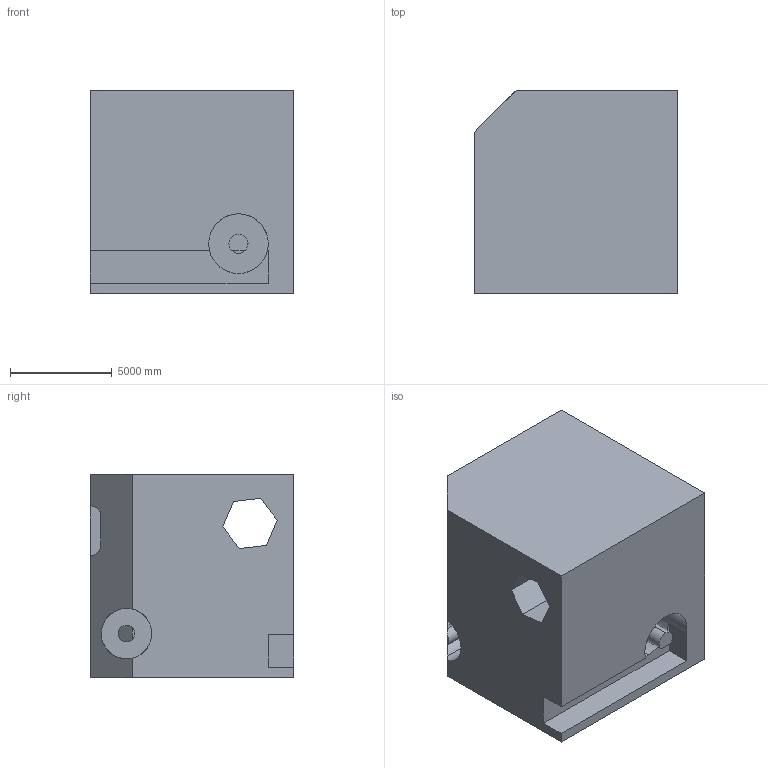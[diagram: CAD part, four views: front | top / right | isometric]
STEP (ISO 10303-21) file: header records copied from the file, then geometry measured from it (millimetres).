
FILE_DESCRIPTION (( 'STEP AP203' ), '1' );
FILE_NAME ('615.STEP', '2022-08-05T16:11:15', ( 'user' ), ( '' ), 'SwSTEP 2.0', 'SolidWorks 2021', '' );
FILE_SCHEMA (( 'CONFIG_CONTROL_DESIGN' ));
Length unit declared in the file: centimetre
Products named in the file (1): 615
Bounding box: 10000 x 10000 x 10000 mm (x, y, z)
Volume: 865364445657.3 mm3; surface area: 763794588.5 mm2
Topology: 1 solids, 1 shells, 46 faces, 129 edges, 86 vertices
Faces by surface type: plane 36, cylinder 10
Entity records: 1566 total; most frequent: CARTESIAN_POINT 286, ORIENTED_EDGE 258, DIRECTION 243, EDGE_CURVE 129, VECTOR 93, LINE 93, VERTEX_POINT 86, AXIS2_PLACEMENT_3D 75
